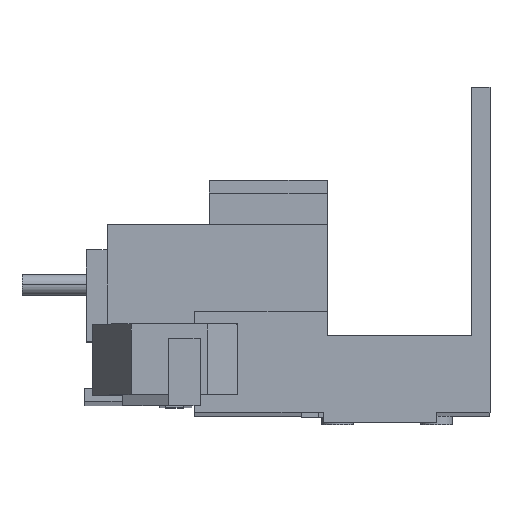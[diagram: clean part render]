
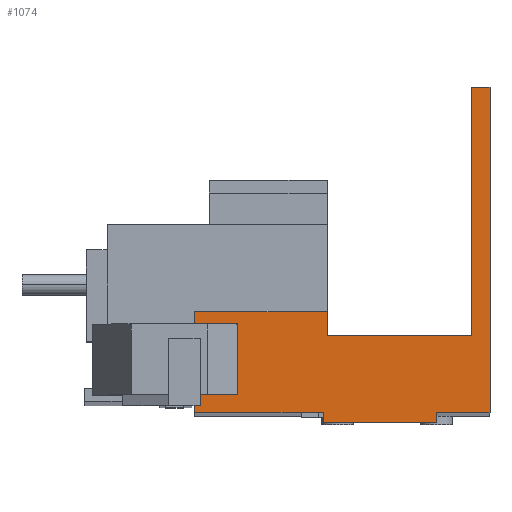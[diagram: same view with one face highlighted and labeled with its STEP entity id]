
A CAD part, front view. The second image highlights one B-rep face of the part: STEP entity #1074.
In plain terms, the highlighted planar face has unit normal (0, -1, 0.002).
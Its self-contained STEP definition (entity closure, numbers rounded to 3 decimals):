
#88 = FACE_OUTER_BOUND ( 'NONE', #3729, .T. ) ;
#91 = ORIENTED_EDGE ( 'NONE', *, *, #5142, .T. ) ;
#111 = VERTEX_POINT ( 'NONE', #4312 ) ;
#113 = VERTEX_POINT ( 'NONE', #4311 ) ;
#129 = VERTEX_POINT ( 'NONE', #4308 ) ;
#166 = VERTEX_POINT ( 'NONE', #4604 ) ;
#214 = VERTEX_POINT ( 'NONE', #4595 ) ;
#226 = VERTEX_POINT ( 'NONE', #4559 ) ;
#236 = VERTEX_POINT ( 'NONE', #4574 ) ;
#240 = VERTEX_POINT ( 'NONE', #4560 ) ;
#304 = VERTEX_POINT ( 'NONE', #4488 ) ;
#325 = VERTEX_POINT ( 'NONE', #4356 ) ;
#360 = VERTEX_POINT ( 'NONE', #4400 ) ;
#393 = VERTEX_POINT ( 'NONE', #4463 ) ;
#721 = ORIENTED_EDGE ( 'NONE', *, *, #3546, .T. ) ;
#723 = ORIENTED_EDGE ( 'NONE', *, *, #4819, .T. ) ;
#725 = ORIENTED_EDGE ( 'NONE', *, *, #4916, .F. ) ;
#727 = ORIENTED_EDGE ( 'NONE', *, *, #4912, .F. ) ;
#729 = ORIENTED_EDGE ( 'NONE', *, *, #4908, .T. ) ;
#731 = ORIENTED_EDGE ( 'NONE', *, *, #4825, .T. ) ;
#733 = ORIENTED_EDGE ( 'NONE', *, *, #5117, .T. ) ;
#735 = ORIENTED_EDGE ( 'NONE', *, *, #5083, .T. ) ;
#737 = ORIENTED_EDGE ( 'NONE', *, *, #4931, .T. ) ;
#745 = ORIENTED_EDGE ( 'NONE', *, *, #5121, .T. ) ;
#1074 = ADVANCED_FACE ( 'NONE', ( #88 ), #3527, .F. ) ;
#1413 = CARTESIAN_POINT ( 'NONE',  ( -41.6, -33.075, -35.931 ) ) ;
#1418 = DIRECTION ( 'NONE',  ( 0., -0.002, -1. ) ) ;
#1583 = CARTESIAN_POINT ( 'NONE',  ( 0., -33.075, -35.931 ) ) ;
#1588 = DIRECTION ( 'NONE',  ( 1., 0., 0. ) ) ;
#1599 = CARTESIAN_POINT ( 'NONE',  ( 0., -33.075, -35.931 ) ) ;
#1600 = DIRECTION ( 'NONE',  ( 1., 0., 0. ) ) ;
#1774 = CARTESIAN_POINT ( 'NONE',  ( -7.5, -33.078, -37.431 ) ) ;
#1775 = DIRECTION ( 'NONE',  ( 0., 0.002, 1. ) ) ;
#1784 = CARTESIAN_POINT ( 'NONE',  ( -7.5, -33.078, -37.431 ) ) ;
#1785 = DIRECTION ( 'NONE',  ( -1., 0., 0. ) ) ;
#1794 = CARTESIAN_POINT ( 'NONE',  ( -23.5, -33.078, -37.431 ) ) ;
#1795 = DIRECTION ( 'NONE',  ( 0., 0.002, 1. ) ) ;
#1803 = CARTESIAN_POINT ( 'NONE',  ( -1.75, -33.053, -25.181 ) ) ;
#1804 = DIRECTION ( 'NONE',  ( -1., 0., 0. ) ) ;
#1818 = CARTESIAN_POINT ( 'NONE',  ( -2.55, -33.072, -34.474 ) ) ;
#1827 = DIRECTION ( 'NONE',  ( 0., -0.002, -1. ) ) ;
#2185 = CARTESIAN_POINT ( 'NONE',  ( -2.55, -32.98, 9.819 ) ) ;
#2186 = DIRECTION ( 'NONE',  ( -1., 0., 0. ) ) ;
#2265 = CARTESIAN_POINT ( 'NONE',  ( 0., -32.98, 9.819 ) ) ;
#2266 = DIRECTION ( 'NONE',  ( 0., 0.002, 1. ) ) ;
#2273 = CARTESIAN_POINT ( 'NONE',  ( -41.6, -33.046, -21.831 ) ) ;
#2274 = DIRECTION ( 'NONE',  ( -1., 0., 0. ) ) ;
#2304 = DIRECTION ( 'NONE',  ( 0., 0.002, 1. ) ) ;
#2305 = CARTESIAN_POINT ( 'NONE',  ( -22.92, -33.046, -21.831 ) ) ;
#2472 = LINE ( 'NONE', #1774, #2779 ) ;
#2533 = LINE ( 'NONE', #1794, #2824 ) ;
#2538 = VECTOR ( 'NONE', #2266, 1000. ) ;
#2547 = LINE ( 'NONE', #2185, #2710 ) ;
#2581 = LINE ( 'NONE', #2305, #2791 ) ;
#2647 = VECTOR ( 'NONE', #2274, 1000. ) ;
#2710 = VECTOR ( 'NONE', #2186, 1000. ) ;
#2749 = LINE ( 'NONE', #1784, #2876 ) ;
#2779 = VECTOR ( 'NONE', #1775, 1000. ) ;
#2791 = VECTOR ( 'NONE', #2304, 1000. ) ;
#2824 = VECTOR ( 'NONE', #1795, 1000. ) ;
#2836 = LINE ( 'NONE', #1818, #2854 ) ;
#2841 = LINE ( 'NONE', #2265, #2538 ) ;
#2854 = VECTOR ( 'NONE', #1827, 1000. ) ;
#2862 = LINE ( 'NONE', #1803, #2870 ) ;
#2870 = VECTOR ( 'NONE', #1804, 1000. ) ;
#2876 = VECTOR ( 'NONE', #1785, 1000. ) ;
#2878 = LINE ( 'NONE', #2273, #2647 ) ;
#3523 = DIRECTION ( 'NONE',  ( -1., 0., 0. ) ) ;
#3525 = DIRECTION ( 'NONE',  ( 0., 1., -0.002 ) ) ;
#3527 = PLANE ( 'NONE',  #5203 ) ;
#3534 = CARTESIAN_POINT ( 'NONE',  ( 0., -33.075, -35.931 ) ) ;
#3546 = EDGE_CURVE ( 'NONE', #111, #166, #4258, .T. ) ;
#3630 = LINE ( 'NONE', #1583, #3638 ) ;
#3632 = LINE ( 'NONE', #1599, #3688 ) ;
#3638 = VECTOR ( 'NONE', #1588, 1000. ) ;
#3688 = VECTOR ( 'NONE', #1600, 1000. ) ;
#3729 = EDGE_LOOP ( 'NONE', ( #4749, #91, #745, #721, #723, #725, #727, #729, #731, #733, #735, #737 ) ) ;
#4258 = LINE ( 'NONE', #1413, #4266 ) ;
#4266 = VECTOR ( 'NONE', #1418, 1000. ) ;
#4308 = CARTESIAN_POINT ( 'NONE',  ( -2.55, -32.98, 9.819 ) ) ;
#4311 = CARTESIAN_POINT ( 'NONE',  ( -2.55, -33.053, -25.181 ) ) ;
#4312 = CARTESIAN_POINT ( 'NONE',  ( -41.6, -33.046, -21.831 ) ) ;
#4356 = CARTESIAN_POINT ( 'NONE',  ( -23.5, -33.075, -35.931 ) ) ;
#4400 = CARTESIAN_POINT ( 'NONE',  ( 0., -32.98, 9.819 ) ) ;
#4463 = CARTESIAN_POINT ( 'NONE',  ( -22.92, -33.053, -25.181 ) ) ;
#4488 = CARTESIAN_POINT ( 'NONE',  ( -23.5, -33.078, -37.431 ) ) ;
#4559 = CARTESIAN_POINT ( 'NONE',  ( -7.5, -33.075, -35.931 ) ) ;
#4560 = CARTESIAN_POINT ( 'NONE',  ( 0., -33.075, -35.931 ) ) ;
#4574 = CARTESIAN_POINT ( 'NONE',  ( -7.5, -33.078, -37.431 ) ) ;
#4595 = CARTESIAN_POINT ( 'NONE',  ( -22.92, -33.046, -21.831 ) ) ;
#4604 = CARTESIAN_POINT ( 'NONE',  ( -41.6, -33.075, -35.931 ) ) ;
#4749 = ORIENTED_EDGE ( 'NONE', *, *, #4920, .T. ) ;
#4819 = EDGE_CURVE ( 'NONE', #166, #325, #3630, .T. ) ;
#4825 = EDGE_CURVE ( 'NONE', #226, #240, #3632, .T. ) ;
#4908 = EDGE_CURVE ( 'NONE', #236, #226, #2472, .T. ) ;
#4912 = EDGE_CURVE ( 'NONE', #236, #304, #2749, .T. ) ;
#4916 = EDGE_CURVE ( 'NONE', #304, #325, #2533, .T. ) ;
#4920 = EDGE_CURVE ( 'NONE', #113, #393, #2862, .T. ) ;
#4931 = EDGE_CURVE ( 'NONE', #129, #113, #2836, .T. ) ;
#5083 = EDGE_CURVE ( 'NONE', #360, #129, #2547, .T. ) ;
#5117 = EDGE_CURVE ( 'NONE', #240, #360, #2841, .T. ) ;
#5121 = EDGE_CURVE ( 'NONE', #214, #111, #2878, .T. ) ;
#5142 = EDGE_CURVE ( 'NONE', #393, #214, #2581, .T. ) ;
#5203 = AXIS2_PLACEMENT_3D ( 'NONE', #3534, #3525, #3523 ) ;
